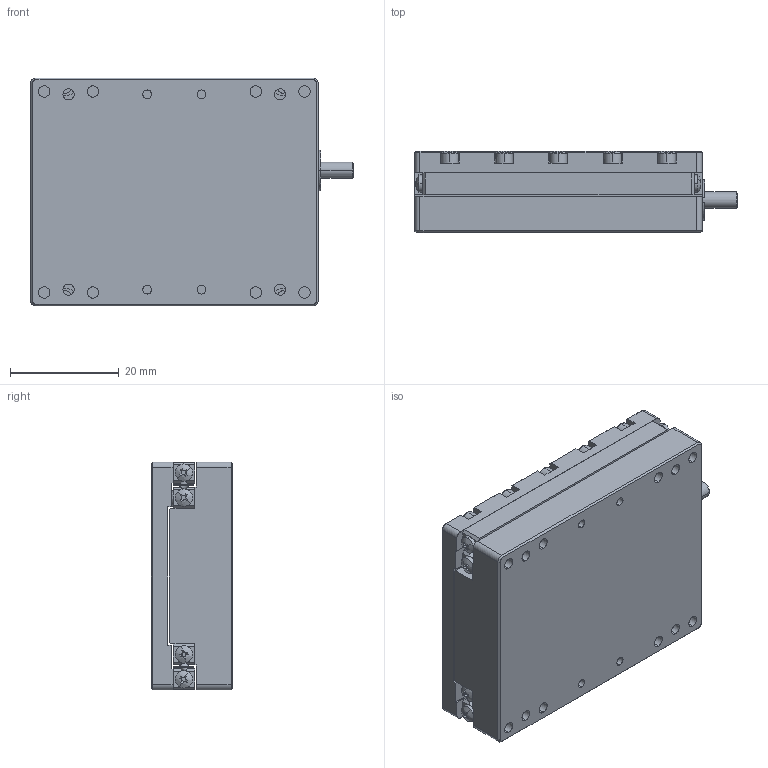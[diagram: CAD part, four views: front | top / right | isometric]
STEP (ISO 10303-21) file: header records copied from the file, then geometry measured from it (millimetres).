
FILE_DESCRIPTION (( 'STEP AP214' ), '1' );
FILE_NAME ('N56.30E-B1闭环直线压电马达3D图(23.04.13）.STEP', '2026-05-29T05:53:24', ( '微软用户' ), ( '微软中国' ), 'SwSTEP 2.0', 'SolidWorks 2016', '' );
FILE_SCHEMA (( 'AUTOMOTIVE_DESIGN' ));
Length unit declared in the file: millimetre
Products named in the file (1): N56.30E-B1闭环直线压电马达3D图(23.04.13）
Bounding box: 59.5 x 15 x 42 mm (x, y, z)
Volume: 23080.5 mm3; surface area: 20705.6 mm2
Topology: 59 solids, 59 shells, 1401 faces, 3507 edges, 2283 vertices
Faces by surface type: plane 675, cylinder 600, cone 80, bspline 46
Entity records: 43506 total; most frequent: CARTESIAN_POINT 8690, DIRECTION 7283, ORIENTED_EDGE 6914, EDGE_CURVE 3457, AXIS2_PLACEMENT_3D 2716, VERTEX_POINT 2283, LINE 1851, VECTOR 1851
